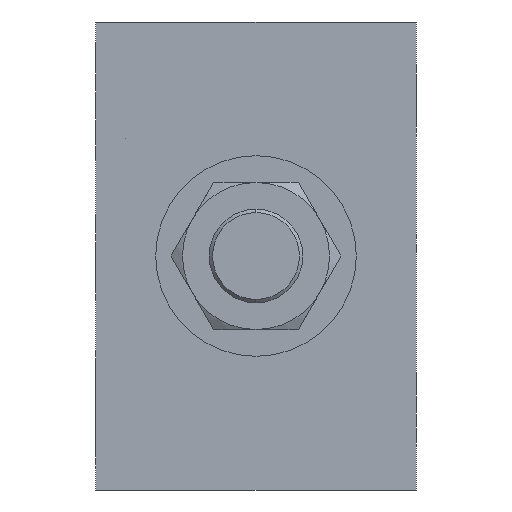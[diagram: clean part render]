
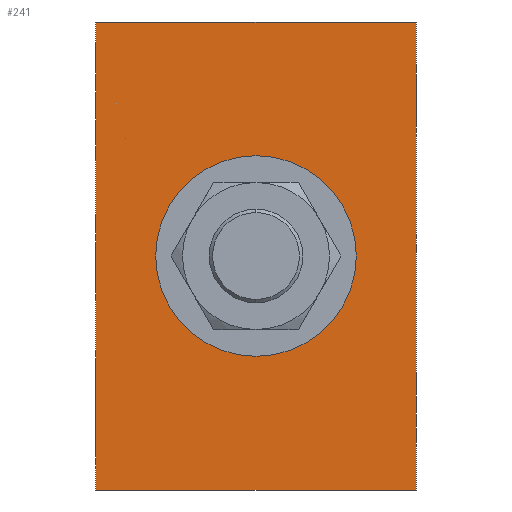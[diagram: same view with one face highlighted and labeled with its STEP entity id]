
A CAD part, left-side view. The second image highlights one B-rep face of the part: STEP entity #241.
In plain terms, the highlighted planar face has unit normal (-1, 0, 0).
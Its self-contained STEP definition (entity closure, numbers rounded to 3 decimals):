
#30 = CARTESIAN_POINT ( 'NONE',  ( -37., 0., 0. ) ) ;
#49 = VECTOR ( 'NONE', #816, 1000. ) ;
#90 = VERTEX_POINT ( 'NONE', #1216 ) ;
#241 = ADVANCED_FACE ( 'NONE', ( #1229, #1841 ), #1369, .T. ) ;
#320 = VERTEX_POINT ( 'NONE', #2813 ) ;
#353 = CARTESIAN_POINT ( 'NONE',  ( -37., -24., 35. ) ) ;
#447 = DIRECTION ( 'NONE',  ( 0., 0., 1. ) ) ;
#462 = CIRCLE ( 'NONE', #934, 15. ) ;
#464 = LINE ( 'NONE', #1959, #887 ) ;
#475 = ORIENTED_EDGE ( 'NONE', *, *, #2357, .F. ) ;
#491 = CARTESIAN_POINT ( 'NONE',  ( -37., 0., 0. ) ) ;
#565 = LINE ( 'NONE', #353, #49 ) ;
#573 = VERTEX_POINT ( 'NONE', #1818 ) ;
#611 = DIRECTION ( 'NONE',  ( 0., 0., -1. ) ) ;
#709 = CARTESIAN_POINT ( 'NONE',  ( -37., 0., -15. ) ) ;
#717 = AXIS2_PLACEMENT_3D ( 'NONE', #857, #2428, #447 ) ;
#744 = CIRCLE ( 'NONE', #1291, 15. ) ;
#748 = EDGE_CURVE ( 'NONE', #320, #90, #565, .T. ) ;
#781 = VECTOR ( 'NONE', #3143, 1000. ) ;
#816 = DIRECTION ( 'NONE',  ( 0., -1., 0. ) ) ;
#857 = CARTESIAN_POINT ( 'NONE',  ( -37., 0., 0. ) ) ;
#887 = VECTOR ( 'NONE', #611, 1000. ) ;
#908 = DIRECTION ( 'NONE',  ( 0., 0., 1. ) ) ;
#934 = AXIS2_PLACEMENT_3D ( 'NONE', #491, #2257, #908 ) ;
#1216 = CARTESIAN_POINT ( 'NONE',  ( -37., -24., 35. ) ) ;
#1229 = FACE_OUTER_BOUND ( 'NONE', #3098, .T. ) ;
#1267 = CARTESIAN_POINT ( 'NONE',  ( -37., -24., -35. ) ) ;
#1291 = AXIS2_PLACEMENT_3D ( 'NONE', #30, #2781, #2114 ) ;
#1292 = EDGE_CURVE ( 'NONE', #2916, #573, #744, .T. ) ;
#1369 = PLANE ( 'NONE',  #717 ) ;
#1452 = EDGE_LOOP ( 'NONE', ( #1811, #1760 ) ) ;
#1478 = CARTESIAN_POINT ( 'NONE',  ( -37., -24., -35. ) ) ;
#1572 = EDGE_CURVE ( 'NONE', #573, #2916, #462, .T. ) ;
#1637 = VECTOR ( 'NONE', #1688, 1000. ) ;
#1688 = DIRECTION ( 'NONE',  ( 0., 0., 1. ) ) ;
#1760 = ORIENTED_EDGE ( 'NONE', *, *, #1292, .T. ) ;
#1798 = EDGE_CURVE ( 'NONE', #2175, #320, #2840, .T. ) ;
#1811 = ORIENTED_EDGE ( 'NONE', *, *, #1572, .T. ) ;
#1818 = CARTESIAN_POINT ( 'NONE',  ( -37., 0., 15. ) ) ;
#1841 = FACE_BOUND ( 'NONE', #1452, .T. ) ;
#1852 = EDGE_CURVE ( 'NONE', #2564, #2175, #2367, .T. ) ;
#1959 = CARTESIAN_POINT ( 'NONE',  ( -37., -24., 35. ) ) ;
#2023 = ORIENTED_EDGE ( 'NONE', *, *, #1798, .F. ) ;
#2047 = CARTESIAN_POINT ( 'NONE',  ( -37., 24., 35. ) ) ;
#2114 = DIRECTION ( 'NONE',  ( 0., 0., 1. ) ) ;
#2175 = VERTEX_POINT ( 'NONE', #2842 ) ;
#2257 = DIRECTION ( 'NONE',  ( 1., 0., 0. ) ) ;
#2357 = EDGE_CURVE ( 'NONE', #90, #2564, #464, .T. ) ;
#2367 = LINE ( 'NONE', #1478, #781 ) ;
#2428 = DIRECTION ( 'NONE',  ( -1., 0., 0. ) ) ;
#2487 = ORIENTED_EDGE ( 'NONE', *, *, #1852, .F. ) ;
#2564 = VERTEX_POINT ( 'NONE', #1267 ) ;
#2781 = DIRECTION ( 'NONE',  ( 1., 0., 0. ) ) ;
#2813 = CARTESIAN_POINT ( 'NONE',  ( -37., 24., 35. ) ) ;
#2840 = LINE ( 'NONE', #2047, #1637 ) ;
#2842 = CARTESIAN_POINT ( 'NONE',  ( -37., 24., -35. ) ) ;
#2916 = VERTEX_POINT ( 'NONE', #709 ) ;
#3014 = ORIENTED_EDGE ( 'NONE', *, *, #748, .F. ) ;
#3098 = EDGE_LOOP ( 'NONE', ( #3014, #2023, #2487, #475 ) ) ;
#3143 = DIRECTION ( 'NONE',  ( 0., 1., 0. ) ) ;
